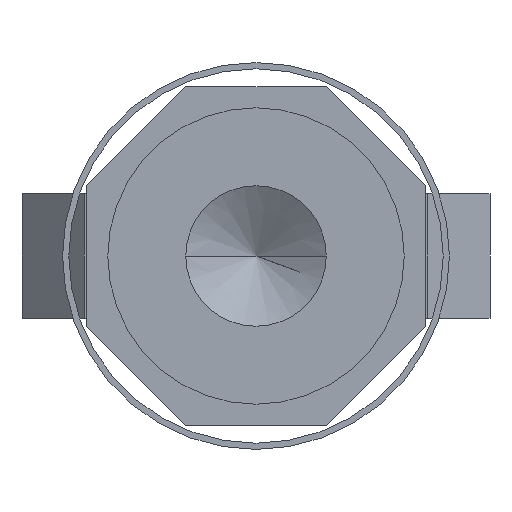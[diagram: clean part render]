
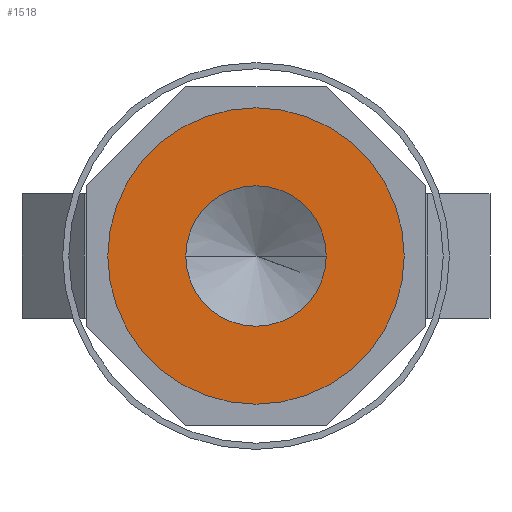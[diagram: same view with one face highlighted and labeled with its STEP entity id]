
A CAD part, left-side view. The second image highlights one B-rep face of the part: STEP entity #1518.
In plain terms, the highlighted planar face has unit normal (-1, 0, 0).
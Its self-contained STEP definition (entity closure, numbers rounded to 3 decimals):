
#304=CARTESIAN_POINT('',(-115.,0.,0.));
#305=DIRECTION('',(-1.,0.,0.));
#306=DIRECTION('',(0.,-1.,0.));
#307=AXIS2_PLACEMENT_3D('',#304,#305,#306);
#309=CARTESIAN_POINT('',(-115.,0.,0.));
#310=DIRECTION('',(-1.,0.,0.));
#311=DIRECTION('',(0.,1.,0.));
#312=AXIS2_PLACEMENT_3D('',#309,#310,#311);
#314=CARTESIAN_POINT('',(-115.,0.,0.));
#315=DIRECTION('',(-1.,0.,0.));
#316=DIRECTION('',(0.,1.,0.));
#317=AXIS2_PLACEMENT_3D('',#314,#315,#316);
#319=CARTESIAN_POINT('',(-115.,0.,0.));
#320=DIRECTION('',(-1.,0.,0.));
#321=DIRECTION('',(0.,-1.,0.));
#322=AXIS2_PLACEMENT_3D('',#319,#320,#321);
#822=CARTESIAN_POINT('',(-115.,-9.5,0.));
#823=CARTESIAN_POINT('',(-115.,9.5,0.));
#824=VERTEX_POINT('',#822);
#825=VERTEX_POINT('',#823);
#912=CARTESIAN_POINT('',(-115.,4.5,0.));
#913=CARTESIAN_POINT('',(-115.,-4.5,0.));
#914=VERTEX_POINT('',#912);
#915=VERTEX_POINT('',#913);
#1502=CARTESIAN_POINT('',(-115.,0.,0.));
#1503=DIRECTION('',(1.,0.,0.));
#1504=DIRECTION('',(0.,-1.,0.));
#1505=AXIS2_PLACEMENT_3D('',#1502,#1503,#1504);
#1506=PLANE('',#1505);
#1507=ORIENTED_EDGE('',*,*,#1492,.F.);
#1509=ORIENTED_EDGE('',*,*,#1508,.F.);
#1510=EDGE_LOOP('',(#1507,#1509));
#1511=FACE_OUTER_BOUND('',#1510,.F.);
#1513=ORIENTED_EDGE('',*,*,#1512,.T.);
#1515=ORIENTED_EDGE('',*,*,#1514,.T.);
#1516=EDGE_LOOP('',(#1513,#1515));
#1517=FACE_BOUND('',#1516,.F.);
#1518=ADVANCED_FACE('',(#1511,#1517),#1506,.F.);
#308=CIRCLE('',#307,9.5);
#313=CIRCLE('',#312,9.5);
#318=CIRCLE('',#317,4.5);
#323=CIRCLE('',#322,4.5);
#1492=EDGE_CURVE('',#824,#825,#308,.T.);
#1508=EDGE_CURVE('',#825,#824,#313,.T.);
#1512=EDGE_CURVE('',#914,#915,#318,.T.);
#1514=EDGE_CURVE('',#915,#914,#323,.T.);
